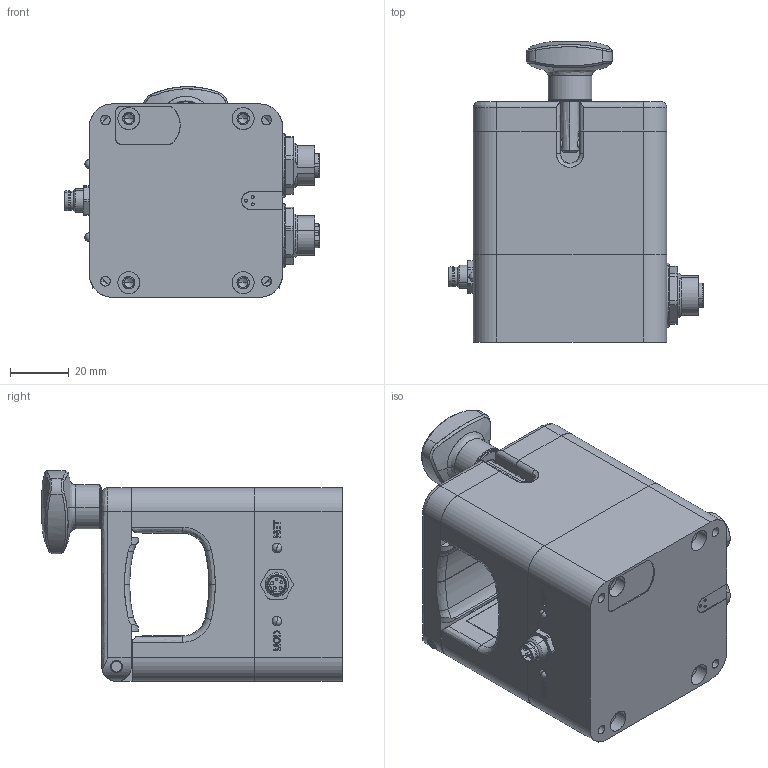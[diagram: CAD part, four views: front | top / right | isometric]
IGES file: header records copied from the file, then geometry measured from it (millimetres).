
Start section: SolidWorks IGES file using analytic representation for surfaces
Global section: file name: C:\Users\mhooglugt\Siemens\swcache\MFC117\BCU-1375.IGS; native system: SolidWorks 2023; preprocessor: SolidWorks 2023; author: MHooglugt; date: 250729.103120; units: inch
Bounding box: 87.1 x 102.5 x 71.89 mm (x, y, z)
Surface area: 66911.7 mm2 (no closed solid volume)
Topology: 0 solids, 0 shells, 1161 faces, 13746 edges, 13655 vertices
Faces by surface type: revolution 587, bspline 574
